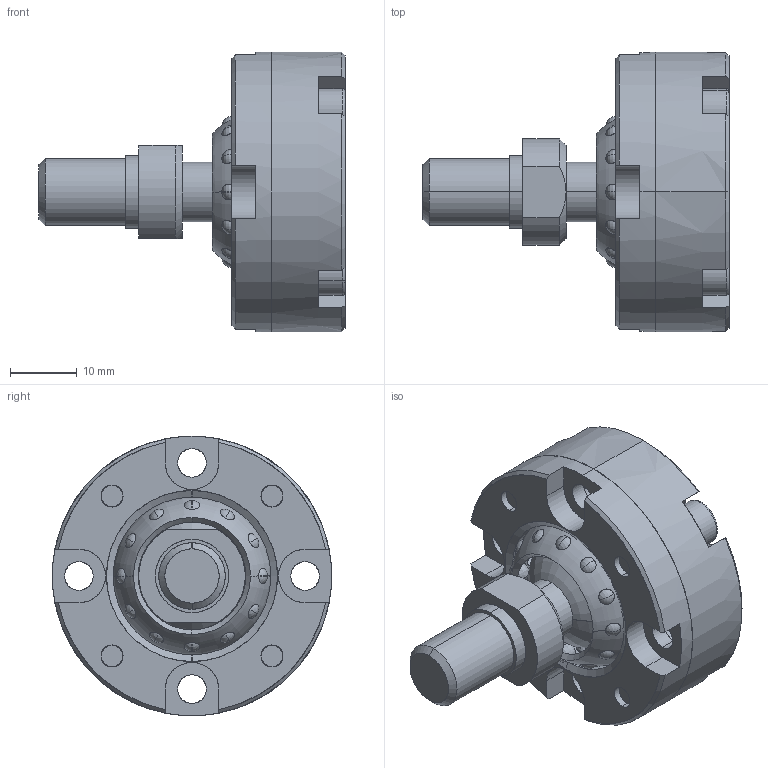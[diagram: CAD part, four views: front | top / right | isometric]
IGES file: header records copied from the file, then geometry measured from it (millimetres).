
Start section: SolidWorks IGES file using analytic representation for surfaces
Global section: file name: C:\Users\render\Documents\CAD Files\SRJ\SRJ012C\SR JOINT - SRJ012C.IGS; native system: SolidWorks 2009; preprocessor: SolidWorks 2009; author: render; date: 100601.153528; units: millimetre
Bounding box: 46 x 42 x 42 mm (x, y, z)
Surface area: 13336.4 mm2 (no closed solid volume)
Topology: 0 solids, 0 shells, 302 faces, 7626 edges, 7557 vertices
Faces by surface type: revolution 212, bspline 90
